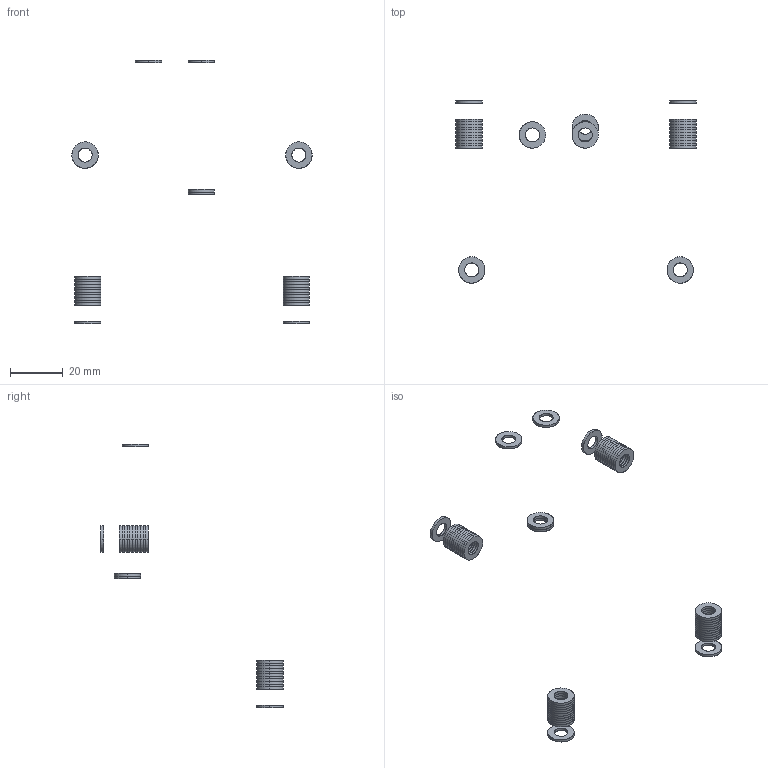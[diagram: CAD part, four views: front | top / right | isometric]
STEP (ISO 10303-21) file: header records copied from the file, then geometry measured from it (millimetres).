
FILE_DESCRIPTION(/* description */ (''),/* implementation_level */ '2;1');
FILE_NAME(/* name */ 'X-24BD~1',/* time_stamp */ '2014-02-14T19:45:07+01:00',/* author */ (''),/* organization */ (''),/* preprocessor_version */ 'ST-DEVELOPER v14',/* originating_system */ '',/* authorisation */ '');
FILE_SCHEMA (('AUTOMOTIVE_DESIGN'));
Length unit declared in the file: millimetre
Products named in the file (2): Document; washer DIN125-like, form A, M5
Assembly tree (52 placements, depth 2):
  Document
    washer DIN125-like, form A, M5  x52
Bounding box: 91 x 69 x 100 mm (x, y, z)
Surface area: 8386.1 mm2 (no closed solid volume)
Topology: 0 solids, 312 shells, 312 faces, 1040 edges, 1040 vertices
Faces by surface type: bspline 208, plane 104
Entity records: 951 total; most frequent: CARTESIAN_POINT 309, DIRECTION 112, AXIS2_PLACEMENT_3D 57, PRODUCT_DEFINITION_SHAPE 54, ITEM_DEFINED_TRANSFORMATION 52, CONTEXT_DEPENDENT_SHAPE_REPRESENTATION 52, NEXT_ASSEMBLY_USAGE_OCCURRENCE 52, B_SPLINE_CURVE_WITH_KNOTS 24
